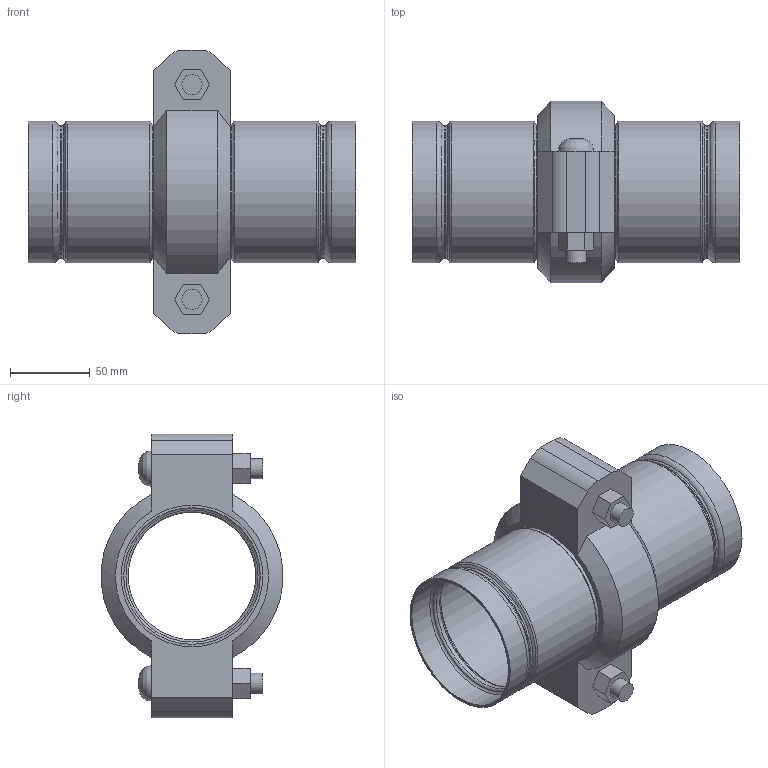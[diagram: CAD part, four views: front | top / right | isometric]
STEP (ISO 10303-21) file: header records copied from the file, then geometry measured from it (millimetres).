
FILE_DESCRIPTION(/* description */ ('VIC STRENGTHIN 100 EXPANSION JOINT 1 COUPLING NEUTRAL STYLE E155 (ST1)','CAx-IF Rec.Pracs.---Representation and Presentation of Product Manufacturing Information (PMI)---4.0---2014-10-13'),/* implementation_level */ '2;1');
FILE_NAME(/* name */ 'C:\Users\Vjadhav\AppData\Roaming\Autodesk\ApplicationPlugins\Victaulic.Temp\A726\Victaulic_SS-StrengThin 100_Expansion Joint_Neutral_1 Coupling_Style E155 (ST1)_1 Coup_Neut_3 (80).stp',/* time_stamp */ '2021-07-20T17:38:35+05:00',/* author */ ('kkamble'),/* organization */ ('Victaulic'),/* preprocessor_version */ 'ST-DEVELOPER v17.2',/* originating_system */ 'Autodesk Inventor 2019',/* authorisation */ '');
FILE_SCHEMA (('AP242_MANAGED_MODEL_BASED_3D_ENGINEERING_MIM_LF { 1 0 10303 442 1 1 4 }'));
Length unit declared in the file: inch
Products named in the file (3): E155-03.0; E494G-03.0; 075-03.0
Assembly tree (3 placements, depth 2):
  E155-03.0
    E494G-03.0  x2
    075-03.0
Bounding box: 205.49 x 113.88 x 177.8 mm (x, y, z)
Volume: 426924.3 mm3; surface area: 178878 mm2
Topology: 3 solids, 5 shells, 125 faces, 355 edges, 256 vertices
Faces by surface type: plane 48, cylinder 35, torus 32, cone 8, bspline 2
Full cylindrical faces by diameter (mm): 12.7 x4, 14.605 x2, 79.985 x2, 81.737 x2, 82.55 x1, 83.185 x2, 84.938 x2, 85.7 x6, 88.9 x8
Entity records: 3250 total; most frequent: CARTESIAN_POINT 582, DIRECTION 569, ORIENTED_EDGE 488, EDGE_CURVE 244, AXIS2_PLACEMENT_3D 238, VERTEX_POINT 173, CIRCLE 143, EDGE_LOOP 111
